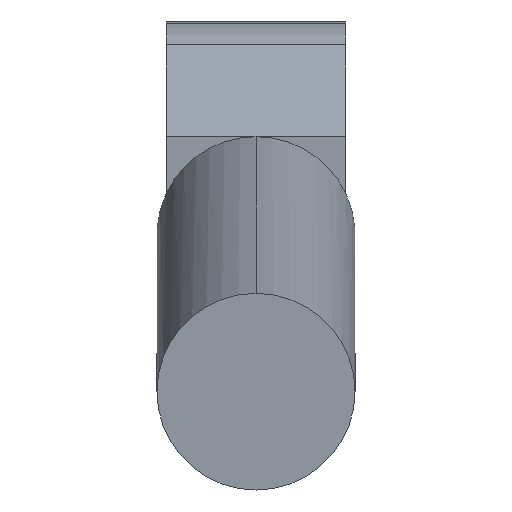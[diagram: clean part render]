
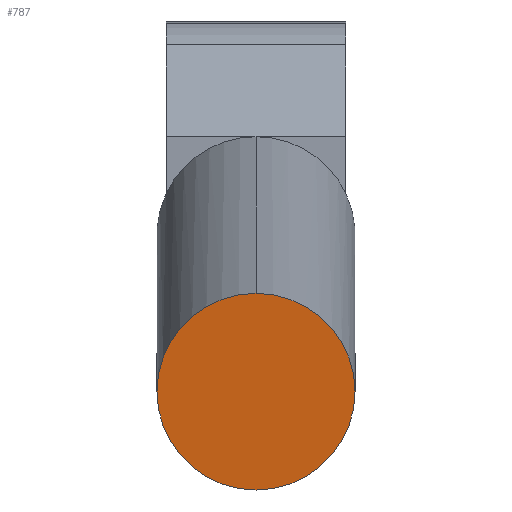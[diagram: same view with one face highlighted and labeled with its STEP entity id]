
A CAD part, top view. The second image highlights one B-rep face of the part: STEP entity #787.
In plain terms, the highlighted planar face has unit normal (0, -0.126, 0.992).
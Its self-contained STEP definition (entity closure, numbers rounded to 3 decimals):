
#625=CARTESIAN_POINT('Vertex',(-175.,253.577,894.218)) ;
#632=CARTESIAN_POINT('Vertex',(-175.,318.058,902.412)) ;
#635=CARTESIAN_POINT('Axis2P3D Location',(-175.,285.818,898.315)) ;
#639=CARTESIAN_POINT('Vertex',(-142.5,285.818,898.315)) ;
#642=CARTESIAN_POINT('Axis2P3D Location',(-175.,285.818,898.315)) ;
#708=CARTESIAN_POINT('Axis2P3D Location',(-175.,285.818,898.315)) ;
#712=CARTESIAN_POINT('Vertex',(-207.5,285.818,898.315)) ;
#715=CARTESIAN_POINT('Axis2P3D Location',(-175.,285.818,898.315)) ;
#776=CARTESIAN_POINT('Axis2P3D Location',(-175.,285.818,898.315)) ;
#636=DIRECTION('Axis2P3D Direction',(0.,-0.126,0.992)) ;
#643=DIRECTION('Axis2P3D Direction',(0.,-0.126,0.992)) ;
#709=DIRECTION('Axis2P3D Direction',(0.,-0.126,0.992)) ;
#716=DIRECTION('Axis2P3D Direction',(0.,-0.126,0.992)) ;
#777=DIRECTION('Axis2P3D Direction',(0.,-0.126,0.992)) ;
#778=DIRECTION('Axis2P3D XDirection',(1.,0.,0.)) ;
#637=AXIS2_PLACEMENT_3D('Circle Axis2P3D',#635,#636,$) ;
#644=AXIS2_PLACEMENT_3D('Circle Axis2P3D',#642,#643,$) ;
#710=AXIS2_PLACEMENT_3D('Circle Axis2P3D',#708,#709,$) ;
#717=AXIS2_PLACEMENT_3D('Circle Axis2P3D',#715,#716,$) ;
#779=AXIS2_PLACEMENT_3D('Plane Axis2P3D',#776,#777,#778) ;
#782=ORIENTED_EDGE('',*,*,#641,.T.) ;
#783=ORIENTED_EDGE('',*,*,#719,.T.) ;
#784=ORIENTED_EDGE('',*,*,#714,.T.) ;
#785=ORIENTED_EDGE('',*,*,#646,.T.) ;
#787=ADVANCED_FACE('PartBody',(#786),#780,.T.) ;
#638=CIRCLE('generated circle',#637,32.5) ;
#645=CIRCLE('generated circle',#644,32.5) ;
#711=CIRCLE('generated circle',#710,32.5) ;
#718=CIRCLE('generated circle',#717,32.5) ;
#641=EDGE_CURVE('',#640,#633,#638,.T.) ;
#646=EDGE_CURVE('',#626,#640,#645,.T.) ;
#714=EDGE_CURVE('',#713,#626,#711,.T.) ;
#719=EDGE_CURVE('',#633,#713,#718,.T.) ;
#781=EDGE_LOOP('',(#782,#783,#784,#785)) ;
#786=FACE_OUTER_BOUND('',#781,.T.) ;
#780=PLANE('',#779) ;
#626=VERTEX_POINT('',#625) ;
#633=VERTEX_POINT('',#632) ;
#640=VERTEX_POINT('',#639) ;
#713=VERTEX_POINT('',#712) ;
